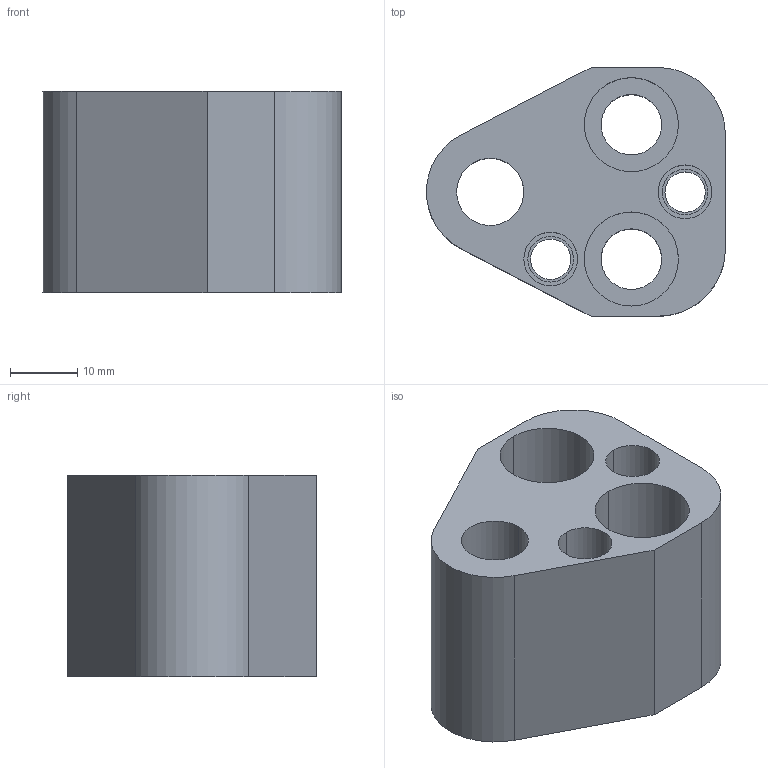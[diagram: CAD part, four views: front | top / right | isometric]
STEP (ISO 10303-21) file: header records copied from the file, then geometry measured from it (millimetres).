
FILE_DESCRIPTION(/* description */ (''),/* implementation_level */ '2;1');
FILE_NAME(/* name */ '3d_cp-an10_03585_r00.stp',/* time_stamp */ '2011-01-10T14:16:31+09:00',/* author */ ('MISUMI'),/* organization */ (''),/* preprocessor_version */ 'ST-DEVELOPER v11',/* originating_system */ 'UGS - NX 5.0',/* authorisation */ '');
FILE_SCHEMA (('CONFIG_CONTROL_DESIGN'));
Length unit declared in the file: millimetre
Products named in the file (1): 3d_cp-an10_03585_r00
Bounding box: 44.47 x 37 x 30 mm (x, y, z)
Volume: 27674 mm3; surface area: 10365.4 mm2
Topology: 1 solids, 1 shells, 43 faces, 100 edges, 66 vertices
Faces by surface type: cylinder 27, plane 14, cone 2
Entity records: 1360 total; most frequent: DIRECTION 244, CARTESIAN_POINT 210, ORIENTED_EDGE 200, EDGE_CURVE 100, AXIS2_PLACEMENT_3D 100, VERTEX_POINT 66, EDGE_LOOP 60, CIRCLE 56
